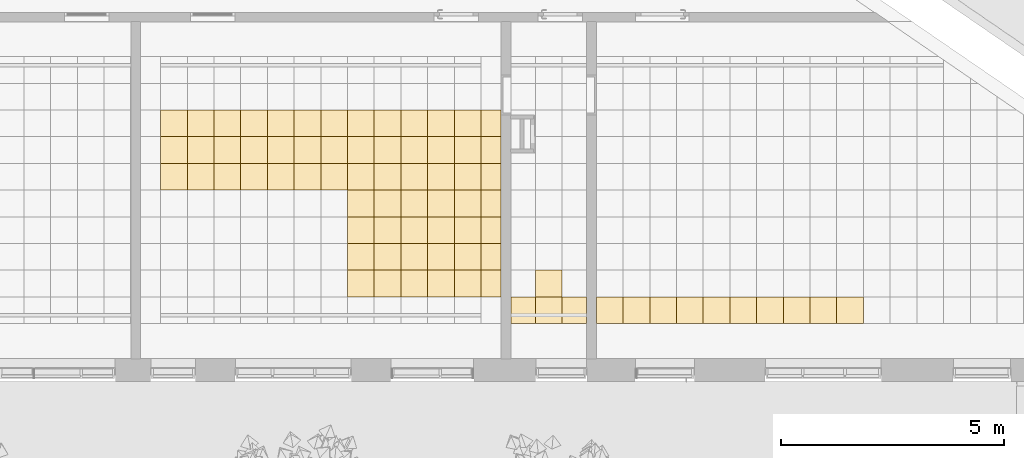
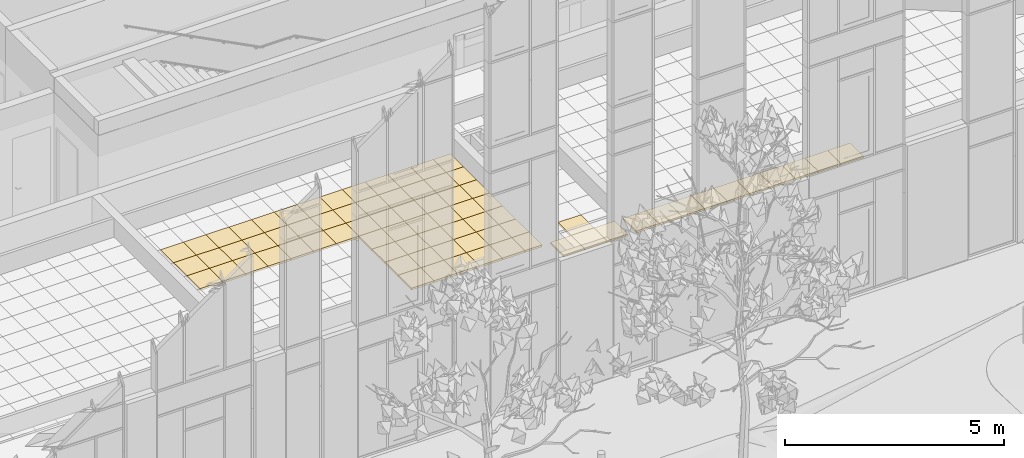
# One storey, part 195 of 246: 77 coverings.
"""IFC2X3 building model written with IfcOpenShell, lengths in millimetres."""

from ifc_helpers import new_model, entity, si_unit, converted_unit, derived_unit, money_unit, direction, frame, origin_with_axes, place, context, subcontext, project, spatial, faceted_brep, material, material_list, type_object, element, save


model = new_model("IFC2X3")

# Units and contexts
model_context = context("Model", 3, precision=0.01, world=origin_with_axes(), true_north=direction((0.0, 1.0)))
body_context = subcontext(model_context, "Body", "Model", "MODEL_VIEW")
ifc_project = project(units=[si_unit("LENGTHUNIT", "METRE", prefix="MILLI"), si_unit("AREAUNIT", "SQUARE_METRE"), si_unit("VOLUMEUNIT", "CUBIC_METRE"), converted_unit("PLANEANGLEUNIT", "DEGREE", entity("IfcPlaneAngleMeasure", 0.0174532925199), si_unit("PLANEANGLEUNIT", "RADIAN"), dimensions=[0, 0, 0, 0, 0, 0, 0]), si_unit("SOLIDANGLEUNIT", "STERADIAN"), money_unit("EUR"), converted_unit("TIMEUNIT", "Year", entity("IfcTimeMeasure", 31556926.0), si_unit("TIMEUNIT", "SECOND"), dimensions=[0, 0, 1, 0, 0, 0, 0]), si_unit("MASSUNIT", "GRAM", prefix="KILO"), si_unit("THERMODYNAMICTEMPERATUREUNIT", "DEGREE_CELSIUS"), si_unit("LUMINOUSINTENSITYUNIT", "LUMEN"), si_unit("ENERGYUNIT", "JOULE", prefix="MEGA"), derived_unit("THERMALCONDUCTANCEUNIT", [(si_unit("POWERUNIT", "WATT"), 1), (si_unit("LENGTHUNIT", "METRE"), -1), (si_unit("THERMODYNAMICTEMPERATUREUNIT", "KELVIN"), -1)]), derived_unit("SPECIFICHEATCAPACITYUNIT", [(si_unit("ENERGYUNIT", "JOULE"), 1), (si_unit("MASSUNIT", "GRAM", prefix="KILO"), -1), (si_unit("THERMODYNAMICTEMPERATUREUNIT", "KELVIN"), -1)]), derived_unit("MASSDENSITYUNIT", [(si_unit("MASSUNIT", "GRAM", prefix="KILO"), 1), (si_unit("VOLUMEUNIT", "CUBIC_METRE"), -1)])], contexts=[model_context])

# Site, building, storey
site_placement = place(None, origin_with_axes())
site = spatial("IfcSite", under=ifc_project, at=site_placement, Name="L.Koidula tn 11b", CompositionType="ELEMENT")
building_placement = place(site_placement, origin_with_axes())
building = spatial("IfcBuilding", under=site, at=building_placement, Name="Rakvere Riigigümnaasium", CompositionType="ELEMENT")
storey_placement = place(building_placement, origin_with_axes())
storey = spatial("IfcBuildingStorey", under=building, at=storey_placement, Name="1.korrus 0,00", CompositionType="ELEMENT", Elevation=0.0)

# Coverings
ifc_material_1 = material(Name="Karkass")
ifc_material_2 = material(Name="Kipsplaat")
ifc_material_list = material_list([ifc_material_1, ifc_material_2])
covering_type = type_object("IfcCoveringType", Name="SA-LV-Kips-moodul 55", PredefinedType="CEILING")
covering_1_placement = place(storey_placement, frame((84339.6975076, 7490.4544438, 2750.0), z_axis=(0.0, 0.0, 1.0), x_axis=(1.0, 0.0, 0.0)))
element("IfcCovering", 1, at=covering_1_placement, inside=storey, type_object=covering_type, material=ifc_material_list, Name="L-03", PredefinedType="CEILING", context=body_context, shape_type="Brep", body=[
    faceted_brep([(-599.999970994, 0.0, 12.5), (-599.999970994, 0.0, 54.5), (0.0, 0.0, 54.5), (0.0, 0.0, 12.5), (-599.999970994, -599.999970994, 12.5), (-599.999970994, -599.999970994, 54.5), (0.0, -599.999970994, 54.5), (0.0, -599.999970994, 12.5)], [[[0, 1, 2, 3]], [[4, 5, 1, 0]], [[2, 1, 5, 6]], [[3, 2, 6, 7]], [[3, 7, 4, 0]], [[7, 6, 5, 4]]]),
    faceted_brep([(0.0, 0.0, 0.0), (-599.999970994, 0.0, 0.0), (-599.999970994, 0.0, 12.5), (0.0, 0.0, 12.5), (0.0, -599.999970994, 0.0), (-599.999970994, -599.999970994, 0.0), (-599.999970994, -599.999970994, 12.5), (0.0, -599.999970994, 12.5)], [[[0, 1, 2, 3]], [[0, 4, 5, 1]], [[1, 5, 6, 2]], [[3, 2, 6, 7]], [[4, 0, 3, 7]], [[5, 4, 7, 6]]]),
])
covering_2_placement = place(storey_placement, frame((84339.6975114, 6890.45442865, 2750.0), z_axis=(0.0, 0.0, 1.0), x_axis=(1.0, 0.0, 0.0)))
element("IfcCovering", 2, at=covering_2_placement, inside=storey, type_object=covering_type, material=ifc_material_list, Name="L-03", PredefinedType="CEILING", context=body_context, shape_type="Brep", body=[
    faceted_brep([(-599.99995585, 0.0, 12.5), (-599.99995585, 0.0, 54.5), (0.0, 0.0, 54.5), (0.0, 0.0, 12.5), (-599.99995585, -599.99995585, 12.5), (-599.99995585, -599.99995585, 54.5), (0.0, -599.99995585, 54.5), (0.0, -599.99995585, 12.5)], [[[0, 1, 2, 3]], [[4, 5, 1, 0]], [[2, 1, 5, 6]], [[3, 2, 6, 7]], [[3, 7, 4, 0]], [[7, 6, 5, 4]]]),
    faceted_brep([(0.0, 0.0, 0.0), (-599.99995585, 0.0, 0.0), (-599.99995585, 0.0, 12.5), (0.0, 0.0, 12.5), (0.0, -599.99995585, 0.0), (-599.99995585, -599.99995585, 0.0), (-599.99995585, -599.99995585, 12.5), (0.0, -599.99995585, 12.5)], [[[0, 1, 2, 3]], [[0, 4, 5, 1]], [[1, 5, 6, 2]], [[3, 2, 6, 7]], [[4, 0, 3, 7]], [[5, 4, 7, 6]]]),
])
covering_3_placement = place(storey_placement, frame((83189.6975436, 6890.45442865, 2750.0), z_axis=(0.0, 0.0, 1.0), x_axis=(1.0, 0.0, 0.0)))
element("IfcCovering", 3, at=covering_3_placement, inside=storey, type_object=covering_type, material=ifc_material_list, Name="L-03", PredefinedType="CEILING", context=body_context, shape_type="Brep", body=[
    faceted_brep([(0.0, -599.99995585, 12.5), (0.0, -599.99995585, 54.5), (0.0, 0.0, 54.5), (0.0, 0.0, 12.5), (549.999942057, -599.99995585, 12.5), (549.999942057, -599.99995585, 54.5), (549.999942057, 0.0, 54.5), (549.999942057, 0.0, 12.5)], [[[0, 1, 2, 3]], [[4, 5, 1, 0]], [[2, 1, 5, 6]], [[3, 2, 6, 7]], [[3, 7, 4, 0]], [[7, 6, 5, 4]]]),
    faceted_brep([(0.0, 0.0, 0.0), (0.0, -599.99995585, 0.0), (0.0, -599.99995585, 12.5), (0.0, 0.0, 12.5), (549.999942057, 0.0, 0.0), (549.999942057, -599.99995585, 0.0), (549.999942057, -599.99995585, 12.5), (549.999942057, 0.0, 12.5)], [[[0, 1, 2, 3]], [[0, 4, 5, 1]], [[1, 5, 6, 2]], [[3, 2, 6, 7]], [[4, 0, 3, 7]], [[5, 4, 7, 6]]]),
])
covering_4_placement = place(storey_placement, frame((84889.6975234, 6890.45442865, 2750.0), z_axis=(0.0, 0.0, 1.0), x_axis=(1.0, 0.0, 0.0)))
element("IfcCovering", 4, at=covering_4_placement, inside=storey, type_object=covering_type, material=ifc_material_list, Name="L-03", PredefinedType="CEILING", context=body_context, shape_type="Brep", body=[
    faceted_brep([(-550.000011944, 0.0, 12.5), (-550.000011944, 0.0, 54.5), (0.0, 0.0, 54.5), (0.0, 0.0, 12.5), (-550.000011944, -599.99995585, 12.5), (-550.000011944, -599.99995585, 54.5), (0.0, -599.99995585, 54.5), (0.0, -599.99995585, 12.5)], [[[0, 1, 2, 3]], [[4, 5, 1, 0]], [[2, 1, 5, 6]], [[3, 2, 6, 7]], [[3, 7, 4, 0]], [[7, 6, 5, 4]]]),
    faceted_brep([(0.0, 0.0, 0.0), (-550.000011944, 0.0, 0.0), (-550.000011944, 0.0, 12.5), (0.0, 0.0, 12.5), (0.0, -599.99995585, 0.0), (-550.000011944, -599.99995585, 0.0), (-550.000011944, -599.99995585, 12.5), (0.0, -599.99995585, 12.5)], [[[0, 1, 2, 3]], [[0, 4, 5, 1]], [[1, 5, 6, 2]], [[3, 2, 6, 7]], [[4, 0, 3, 7]], [[5, 4, 7, 6]]]),
])
for number, where, z_axis, x_axis, name in (
    (5, (75319.7152091, 10490.4535941, 2750.0), (0.0, 0.0, 1.0), (1.0, 0.0, 0.0), "L-03"),
    (6, (75319.7152091, 9890.45359412, 2750.0), (0.0, 0.0, 1.0), (1.0, 0.0, 0.0), "L-03"),
    (7, (75319.7152091, 9290.45359412, 2750.0), (0.0, 0.0, 1.0), (1.0, 0.0, 0.0), "L-03"),
    (8, (76519.7151574, 10490.4535941, 2750.0), (0.0, 0.0, 1.0), (1.0, 0.0, 0.0), "L-03"),
    (9, (76519.7151574, 9890.45359412, 2750.0), (0.0, 0.0, 1.0), (1.0, 0.0, 0.0), "L-03"),
    (10, (76519.7151574, 9290.45359412, 2750.0), (0.0, 0.0, 1.0), (1.0, 0.0, 0.0), "L-03"),
):
    element("IfcCovering", number, at=place(storey_placement, frame(where, z_axis=z_axis, x_axis=x_axis)), inside=storey, type_object=covering_type, material=ifc_material_list, Name=name, PredefinedType="CEILING", context=body_context, shape_type="Brep", body=[
        faceted_brep([(599.999948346, 0.0, 12.5), (599.999948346, 0.0, 54.5), (0.0, 0.0, 54.5), (0.0, 0.0, 12.5), (599.999948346, 600.0, 12.5), (599.999948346, 600.0, 54.5), (0.0, 600.0, 54.5), (0.0, 600.0, 12.5)], [[[0, 1, 2, 3]], [[4, 5, 1, 0]], [[2, 1, 5, 6]], [[3, 2, 6, 7]], [[3, 7, 4, 0]], [[7, 6, 5, 4]]]),
        faceted_brep([(0.0, 0.0, 0.0), (599.999948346, 0.0, 0.0), (599.999948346, 0.0, 12.5), (0.0, 0.0, 12.5), (0.0, 600.0, 0.0), (599.999948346, 600.0, 0.0), (599.999948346, 600.0, 12.5), (0.0, 600.0, 12.5)], [[[0, 1, 2, 3]], [[0, 4, 5, 1]], [[1, 5, 6, 2]], [[3, 2, 6, 7]], [[4, 0, 3, 7]], [[5, 4, 7, 6]]]),
    ])
for number, where, z_axis, x_axis, name in (
    (11, (75919.7151574, 9290.45359412, 2750.0), (0.0, 0.0, 1.0), (1.0, 0.0, 0.0), "L-03"),
    (12, (75919.7151574, 9890.45359412, 2750.0), (0.0, 0.0, 1.0), (1.0, 0.0, 0.0), "L-03"),
    (13, (75919.7151574, 10490.4535941, 2750.0), (0.0, 0.0, 1.0), (1.0, 0.0, 0.0), "L-03"),
):
    element("IfcCovering", number, at=place(storey_placement, frame(where, z_axis=z_axis, x_axis=x_axis)), inside=storey, type_object=covering_type, material=ifc_material_list, Name=name, PredefinedType="CEILING", context=body_context, shape_type="Brep", body=[
        faceted_brep([(600.0, 0.0, 12.5), (600.0, 0.0, 54.5), (0.0, 0.0, 54.5), (0.0, 0.0, 12.5), (600.0, 600.0, 12.5), (600.0, 600.0, 54.5), (0.0, 600.0, 54.5), (0.0, 600.0, 12.5)], [[[0, 1, 2, 3]], [[4, 5, 1, 0]], [[2, 1, 5, 6]], [[3, 2, 6, 7]], [[3, 7, 4, 0]], [[7, 6, 5, 4]]]),
        faceted_brep([(0.0, 0.0, 0.0), (600.0, 0.0, 0.0), (600.0, 0.0, 12.5), (0.0, 0.0, 12.5), (0.0, 600.0, 0.0), (600.0, 600.0, 0.0), (600.0, 600.0, 12.5), (0.0, 600.0, 12.5)], [[[0, 1, 2, 3]], [[0, 4, 5, 1]], [[1, 5, 6, 2]], [[3, 2, 6, 7]], [[4, 0, 3, 7]], [[5, 4, 7, 6]]]),
    ])
for number, where, z_axis, x_axis, name in (
    (14, (77719.7151058, 10490.4535941, 2750.0), (0.0, 0.0, 1.0), (1.0, 0.0, 0.0), "L-03"),
    (15, (77719.7151058, 9890.45359412, 2750.0), (0.0, 0.0, 1.0), (1.0, 0.0, 0.0), "L-03"),
    (16, (77719.7151058, 9290.45359412, 2750.0), (0.0, 0.0, 1.0), (1.0, 0.0, 0.0), "L-03"),
):
    element("IfcCovering", number, at=place(storey_placement, frame(where, z_axis=z_axis, x_axis=x_axis)), inside=storey, type_object=covering_type, material=ifc_material_list, Name=name, PredefinedType="CEILING", context=body_context, shape_type="Brep", body=[
        faceted_brep([(599.999948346, 0.0, 12.5), (599.999948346, 0.0, 54.5), (0.0, 0.0, 54.5), (0.0, 0.0, 12.5), (599.999948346, 600.0, 12.5), (599.999948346, 600.0, 54.5), (0.0, 600.0, 54.5), (0.0, 600.0, 12.5)], [[[0, 1, 2, 3]], [[4, 5, 1, 0]], [[2, 1, 5, 6]], [[3, 2, 6, 7]], [[3, 7, 4, 0]], [[7, 6, 5, 4]]]),
        faceted_brep([(0.0, 0.0, 0.0), (599.999948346, 0.0, 0.0), (599.999948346, 0.0, 12.5), (0.0, 0.0, 12.5), (0.0, 600.0, 0.0), (599.999948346, 600.0, 0.0), (599.999948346, 600.0, 12.5), (0.0, 600.0, 12.5)], [[[0, 1, 2, 3]], [[0, 4, 5, 1]], [[1, 5, 6, 2]], [[3, 2, 6, 7]], [[4, 0, 3, 7]], [[5, 4, 7, 6]]]),
    ])
for number, where, z_axis, x_axis, name in (
    (17, (77119.7151058, 9290.45359412, 2750.0), (0.0, 0.0, 1.0), (1.0, 0.0, 0.0), "L-03"),
    (18, (77119.7151058, 9890.45359412, 2750.0), (0.0, 0.0, 1.0), (1.0, 0.0, 0.0), "L-03"),
    (19, (77119.7151058, 10490.4535941, 2750.0), (0.0, 0.0, 1.0), (1.0, 0.0, 0.0), "L-03"),
):
    element("IfcCovering", number, at=place(storey_placement, frame(where, z_axis=z_axis, x_axis=x_axis)), inside=storey, type_object=covering_type, material=ifc_material_list, Name=name, PredefinedType="CEILING", context=body_context, shape_type="Brep", body=[
        faceted_brep([(600.0, 0.0, 12.5), (600.0, 0.0, 54.5), (0.0, 0.0, 54.5), (0.0, 0.0, 12.5), (600.0, 600.0, 12.5), (600.0, 600.0, 54.5), (0.0, 600.0, 54.5), (0.0, 600.0, 12.5)], [[[0, 1, 2, 3]], [[4, 5, 1, 0]], [[2, 1, 5, 6]], [[3, 2, 6, 7]], [[3, 7, 4, 0]], [[7, 6, 5, 4]]]),
        faceted_brep([(0.0, 0.0, 0.0), (600.0, 0.0, 0.0), (600.0, 0.0, 12.5), (0.0, 0.0, 12.5), (0.0, 600.0, 0.0), (600.0, 600.0, 0.0), (600.0, 600.0, 12.5), (0.0, 600.0, 12.5)], [[[0, 1, 2, 3]], [[0, 4, 5, 1]], [[1, 5, 6, 2]], [[3, 2, 6, 7]], [[4, 0, 3, 7]], [[5, 4, 7, 6]]]),
    ])
for number, where, z_axis, x_axis, name in (
    (20, (78919.7150541, 10490.4535941, 2750.0), (0.0, 0.0, 1.0), (1.0, 0.0, 0.0), "L-03"),
    (21, (78919.7150541, 9890.45359412, 2750.0), (0.0, 0.0, 1.0), (1.0, 0.0, 0.0), "L-03"),
    (22, (78919.7150541, 9290.45359412, 2750.0), (0.0, 0.0, 1.0), (1.0, 0.0, 0.0), "L-03"),
):
    element("IfcCovering", number, at=place(storey_placement, frame(where, z_axis=z_axis, x_axis=x_axis)), inside=storey, type_object=covering_type, material=ifc_material_list, Name=name, PredefinedType="CEILING", context=body_context, shape_type="Brep", body=[
        faceted_brep([(599.999948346, 0.0, 12.5), (599.999948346, 0.0, 54.5), (0.0, 0.0, 54.5), (0.0, 0.0, 12.5), (599.999948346, 600.0, 12.5), (599.999948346, 600.0, 54.5), (0.0, 600.0, 54.5), (0.0, 600.0, 12.5)], [[[0, 1, 2, 3]], [[4, 5, 1, 0]], [[2, 1, 5, 6]], [[3, 2, 6, 7]], [[3, 7, 4, 0]], [[7, 6, 5, 4]]]),
        faceted_brep([(0.0, 0.0, 0.0), (599.999948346, 0.0, 0.0), (599.999948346, 0.0, 12.5), (0.0, 0.0, 12.5), (0.0, 600.0, 0.0), (599.999948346, 600.0, 0.0), (599.999948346, 600.0, 12.5), (0.0, 600.0, 12.5)], [[[0, 1, 2, 3]], [[0, 4, 5, 1]], [[1, 5, 6, 2]], [[3, 2, 6, 7]], [[4, 0, 3, 7]], [[5, 4, 7, 6]]]),
    ])
for number, where, z_axis, x_axis, name in (
    (23, (78319.7150541, 9290.45359412, 2750.0), (0.0, 0.0, 1.0), (1.0, 0.0, 0.0), "L-03"),
    (24, (78319.7150541, 9890.45359412, 2750.0), (0.0, 0.0, 1.0), (1.0, 0.0, 0.0), "L-03"),
    (25, (78319.7150541, 10490.4535941, 2750.0), (0.0, 0.0, 1.0), (1.0, 0.0, 0.0), "L-03"),
):
    element("IfcCovering", number, at=place(storey_placement, frame(where, z_axis=z_axis, x_axis=x_axis)), inside=storey, type_object=covering_type, material=ifc_material_list, Name=name, PredefinedType="CEILING", context=body_context, shape_type="Brep", body=[
        faceted_brep([(600.0, 0.0, 12.5), (600.0, 0.0, 54.5), (0.0, 0.0, 54.5), (0.0, 0.0, 12.5), (600.0, 600.0, 12.5), (600.0, 600.0, 54.5), (0.0, 600.0, 54.5), (0.0, 600.0, 12.5)], [[[0, 1, 2, 3]], [[4, 5, 1, 0]], [[2, 1, 5, 6]], [[3, 2, 6, 7]], [[3, 7, 4, 0]], [[7, 6, 5, 4]]]),
        faceted_brep([(0.0, 0.0, 0.0), (600.0, 0.0, 0.0), (600.0, 0.0, 12.5), (0.0, 0.0, 12.5), (0.0, 600.0, 0.0), (600.0, 600.0, 0.0), (600.0, 600.0, 12.5), (0.0, 600.0, 12.5)], [[[0, 1, 2, 3]], [[0, 4, 5, 1]], [[1, 5, 6, 2]], [[3, 2, 6, 7]], [[4, 0, 3, 7]], [[5, 4, 7, 6]]]),
    ])
for number, where, z_axis, x_axis, name in (
    (26, (80119.7150025, 10490.4535941, 2750.0), (0.0, 0.0, 1.0), (1.0, 0.0, 0.0), "L-03"),
    (27, (80119.7150025, 9890.45359412, 2750.0), (0.0, 0.0, 1.0), (1.0, 0.0, 0.0), "L-03"),
    (28, (80119.7150025, 9290.45359412, 2750.0), (0.0, 0.0, 1.0), (1.0, 0.0, 0.0), "L-03"),
    (29, (80119.7150025, 8690.45359412, 2750.0), (0.0, 0.0, 1.0), (1.0, 0.0, 0.0), "L-03"),
    (30, (80119.7150025, 8090.45359412, 2750.0), (0.0, 0.0, 1.0), (1.0, 0.0, 0.0), "L-03"),
    (31, (80119.7150025, 7490.45359412, 2750.0), (0.0, 0.0, 1.0), (1.0, 0.0, 0.0), "L-03"),
    (32, (80119.7150025, 6890.45359412, 2750.0), (0.0, 0.0, 1.0), (1.0, 0.0, 0.0), "L-03"),
):
    element("IfcCovering", number, at=place(storey_placement, frame(where, z_axis=z_axis, x_axis=x_axis)), inside=storey, type_object=covering_type, material=ifc_material_list, Name=name, PredefinedType="CEILING", context=body_context, shape_type="Brep", body=[
        faceted_brep([(599.999948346, 0.0, 12.5), (599.999948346, 0.0, 54.5), (0.0, 0.0, 54.5), (0.0, 0.0, 12.5), (599.999948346, 600.0, 12.5), (599.999948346, 600.0, 54.5), (0.0, 600.0, 54.5), (0.0, 600.0, 12.5)], [[[0, 1, 2, 3]], [[4, 5, 1, 0]], [[2, 1, 5, 6]], [[3, 2, 6, 7]], [[3, 7, 4, 0]], [[7, 6, 5, 4]]]),
        faceted_brep([(0.0, 0.0, 0.0), (599.999948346, 0.0, 0.0), (599.999948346, 0.0, 12.5), (0.0, 0.0, 12.5), (0.0, 600.0, 0.0), (599.999948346, 600.0, 0.0), (599.999948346, 600.0, 12.5), (0.0, 600.0, 12.5)], [[[0, 1, 2, 3]], [[0, 4, 5, 1]], [[1, 5, 6, 2]], [[3, 2, 6, 7]], [[4, 0, 3, 7]], [[5, 4, 7, 6]]]),
    ])
for number, where, z_axis, x_axis, name in (
    (33, (79519.7150025, 7490.45359412, 2750.0), (0.0, 0.0, 1.0), (1.0, 0.0, 0.0), "L-03"),
    (34, (79519.7150025, 8090.45359412, 2750.0), (0.0, 0.0, 1.0), (1.0, 0.0, 0.0), "L-03"),
    (35, (79519.7150025, 8690.45359412, 2750.0), (0.0, 0.0, 1.0), (1.0, 0.0, 0.0), "L-03"),
    (36, (79519.7150025, 9290.45359412, 2750.0), (0.0, 0.0, 1.0), (1.0, 0.0, 0.0), "L-03"),
    (37, (79519.7150025, 9890.45359412, 2750.0), (0.0, 0.0, 1.0), (1.0, 0.0, 0.0), "L-03"),
    (38, (79519.7150025, 10490.4535941, 2750.0), (0.0, 0.0, 1.0), (1.0, 0.0, 0.0), "L-03"),
    (39, (79519.7150025, 6890.45359412, 2750.0), (0.0, 0.0, 1.0), (1.0, 0.0, 0.0), "L-03"),
):
    element("IfcCovering", number, at=place(storey_placement, frame(where, z_axis=z_axis, x_axis=x_axis)), inside=storey, type_object=covering_type, material=ifc_material_list, Name=name, PredefinedType="CEILING", context=body_context, shape_type="Brep", body=[
        faceted_brep([(600.0, 0.0, 12.5), (600.0, 0.0, 54.5), (0.0, 0.0, 54.5), (0.0, 0.0, 12.5), (600.0, 600.0, 12.5), (600.0, 600.0, 54.5), (0.0, 600.0, 54.5), (0.0, 600.0, 12.5)], [[[0, 1, 2, 3]], [[4, 5, 1, 0]], [[2, 1, 5, 6]], [[3, 2, 6, 7]], [[3, 7, 4, 0]], [[7, 6, 5, 4]]]),
        faceted_brep([(0.0, 0.0, 0.0), (600.0, 0.0, 0.0), (600.0, 0.0, 12.5), (0.0, 0.0, 12.5), (0.0, 600.0, 0.0), (600.0, 600.0, 0.0), (600.0, 600.0, 12.5), (0.0, 600.0, 12.5)], [[[0, 1, 2, 3]], [[0, 4, 5, 1]], [[1, 5, 6, 2]], [[3, 2, 6, 7]], [[4, 0, 3, 7]], [[5, 4, 7, 6]]]),
    ])
for number, where, z_axis, x_axis, name in (
    (40, (81319.7149508, 10490.4535941, 2750.0), (0.0, 0.0, 1.0), (1.0, 0.0, 0.0), "L-03"),
    (41, (81319.7149508, 9890.45359412, 2750.0), (0.0, 0.0, 1.0), (1.0, 0.0, 0.0), "L-03"),
    (42, (81319.7149508, 9290.45359412, 2750.0), (0.0, 0.0, 1.0), (1.0, 0.0, 0.0), "L-03"),
    (43, (81319.7149508, 8690.45359412, 2750.0), (0.0, 0.0, 1.0), (1.0, 0.0, 0.0), "L-03"),
    (44, (81319.7149508, 8090.45359412, 2750.0), (0.0, 0.0, 1.0), (1.0, 0.0, 0.0), "L-03"),
    (45, (81319.7149508, 7490.45359412, 2750.0), (0.0, 0.0, 1.0), (1.0, 0.0, 0.0), "L-03"),
    (46, (81319.7149508, 6890.45359412, 2750.0), (0.0, 0.0, 1.0), (1.0, 0.0, 0.0), "L-03"),
):
    element("IfcCovering", number, at=place(storey_placement, frame(where, z_axis=z_axis, x_axis=x_axis)), inside=storey, type_object=covering_type, material=ifc_material_list, Name=name, PredefinedType="CEILING", context=body_context, shape_type="Brep", body=[
        faceted_brep([(599.999948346, 0.0, 12.5), (599.999948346, 0.0, 54.5), (0.0, 0.0, 54.5), (0.0, 0.0, 12.5), (599.999948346, 600.0, 12.5), (599.999948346, 600.0, 54.5), (0.0, 600.0, 54.5), (0.0, 600.0, 12.5)], [[[0, 1, 2, 3]], [[4, 5, 1, 0]], [[2, 1, 5, 6]], [[3, 2, 6, 7]], [[3, 7, 4, 0]], [[7, 6, 5, 4]]]),
        faceted_brep([(0.0, 0.0, 0.0), (599.999948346, 0.0, 0.0), (599.999948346, 0.0, 12.5), (0.0, 0.0, 12.5), (0.0, 600.0, 0.0), (599.999948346, 600.0, 0.0), (599.999948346, 600.0, 12.5), (0.0, 600.0, 12.5)], [[[0, 1, 2, 3]], [[0, 4, 5, 1]], [[1, 5, 6, 2]], [[3, 2, 6, 7]], [[4, 0, 3, 7]], [[5, 4, 7, 6]]]),
    ])
for number, where, z_axis, x_axis, name in (
    (47, (80719.7149508, 7490.45359412, 2750.0), (0.0, 0.0, 1.0), (1.0, 0.0, 0.0), "L-03"),
    (48, (80719.7149508, 8090.45359412, 2750.0), (0.0, 0.0, 1.0), (1.0, 0.0, 0.0), "L-03"),
    (49, (80719.7149508, 8690.45359412, 2750.0), (0.0, 0.0, 1.0), (1.0, 0.0, 0.0), "L-03"),
    (50, (80719.7149508, 9290.45359412, 2750.0), (0.0, 0.0, 1.0), (1.0, 0.0, 0.0), "L-03"),
    (51, (80719.7149508, 9890.45359412, 2750.0), (0.0, 0.0, 1.0), (1.0, 0.0, 0.0), "L-03"),
    (52, (80719.7149508, 10490.4535941, 2750.0), (0.0, 0.0, 1.0), (1.0, 0.0, 0.0), "L-03"),
    (53, (80719.7149508, 6890.45359412, 2750.0), (0.0, 0.0, 1.0), (1.0, 0.0, 0.0), "L-03"),
):
    element("IfcCovering", number, at=place(storey_placement, frame(where, z_axis=z_axis, x_axis=x_axis)), inside=storey, type_object=covering_type, material=ifc_material_list, Name=name, PredefinedType="CEILING", context=body_context, shape_type="Brep", body=[
        faceted_brep([(600.0, 0.0, 12.5), (600.0, 0.0, 54.5), (0.0, 0.0, 54.5), (0.0, 0.0, 12.5), (600.0, 600.0, 12.5), (600.0, 600.0, 54.5), (0.0, 600.0, 54.5), (0.0, 600.0, 12.5)], [[[0, 1, 2, 3]], [[4, 5, 1, 0]], [[2, 1, 5, 6]], [[3, 2, 6, 7]], [[3, 7, 4, 0]], [[7, 6, 5, 4]]]),
        faceted_brep([(0.0, 0.0, 0.0), (600.0, 0.0, 0.0), (600.0, 0.0, 12.5), (0.0, 0.0, 12.5), (0.0, 600.0, 0.0), (600.0, 600.0, 0.0), (600.0, 600.0, 12.5), (0.0, 600.0, 12.5)], [[[0, 1, 2, 3]], [[0, 4, 5, 1]], [[1, 5, 6, 2]], [[3, 2, 6, 7]], [[4, 0, 3, 7]], [[5, 4, 7, 6]]]),
    ])
for number, where, z_axis, x_axis, name in (
    (54, (82519.7148992, 10490.4535941, 2750.0), (0.0, 0.0, 1.0), (1.0, 0.0, 0.0), "L-03"),
    (55, (82519.7148992, 9890.45359412, 2750.0), (0.0, 0.0, 1.0), (1.0, 0.0, 0.0), "L-03"),
    (56, (82519.7148992, 9290.45359412, 2750.0), (0.0, 0.0, 1.0), (1.0, 0.0, 0.0), "L-03"),
    (57, (82519.7148992, 8690.45359412, 2750.0), (0.0, 0.0, 1.0), (1.0, 0.0, 0.0), "L-03"),
    (58, (82519.7148992, 8090.45359412, 2750.0), (0.0, 0.0, 1.0), (1.0, 0.0, 0.0), "L-03"),
    (59, (82519.7148992, 7490.45359412, 2750.0), (0.0, 0.0, 1.0), (1.0, 0.0, 0.0), "L-03"),
    (60, (82519.7148992, 6890.45359412, 2750.0), (0.0, 0.0, 1.0), (1.0, 0.0, 0.0), "L-03"),
):
    element("IfcCovering", number, at=place(storey_placement, frame(where, z_axis=z_axis, x_axis=x_axis)), inside=storey, type_object=covering_type, material=ifc_material_list, Name=name, PredefinedType="CEILING", context=body_context, shape_type="Brep", body=[
        faceted_brep([(450.341138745, 0.0, 12.5), (450.341138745, 0.0, 54.5), (0.0, 0.0, 54.5), (0.0, 0.0, 12.5), (450.341138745, 600.0, 12.5), (450.341138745, 600.0, 54.5), (0.0, 600.0, 54.5), (0.0, 600.0, 12.5)], [[[0, 1, 2, 3]], [[4, 5, 1, 0]], [[2, 1, 5, 6]], [[3, 2, 6, 7]], [[3, 7, 4, 0]], [[7, 6, 5, 4]]]),
        faceted_brep([(0.0, 0.0, 0.0), (450.341138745, 0.0, 0.0), (450.341138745, 0.0, 12.5), (0.0, 0.0, 12.5), (0.0, 600.0, 0.0), (450.341138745, 600.0, 0.0), (450.341138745, 600.0, 12.5), (0.0, 600.0, 12.5)], [[[0, 1, 2, 3]], [[0, 4, 5, 1]], [[1, 5, 6, 2]], [[3, 2, 6, 7]], [[4, 0, 3, 7]], [[5, 4, 7, 6]]]),
    ])
for number, where, z_axis, x_axis, name in (
    (61, (81919.7148992, 7490.45359412, 2750.0), (0.0, 0.0, 1.0), (1.0, 0.0, 0.0), "L-03"),
    (62, (81919.7148992, 8090.45359412, 2750.0), (0.0, 0.0, 1.0), (1.0, 0.0, 0.0), "L-03"),
    (63, (81919.7148992, 8690.45359412, 2750.0), (0.0, 0.0, 1.0), (1.0, 0.0, 0.0), "L-03"),
    (64, (81919.7148992, 9290.45359412, 2750.0), (0.0, 0.0, 1.0), (1.0, 0.0, 0.0), "L-03"),
    (65, (81919.7148992, 9890.45359412, 2750.0), (0.0, 0.0, 1.0), (1.0, 0.0, 0.0), "L-03"),
    (66, (81919.7148992, 10490.4535941, 2750.0), (0.0, 0.0, 1.0), (1.0, 0.0, 0.0), "L-03"),
    (67, (81919.7148992, 6890.45359412, 2750.0), (0.0, 0.0, 1.0), (1.0, 0.0, 0.0), "L-03"),
):
    element("IfcCovering", number, at=place(storey_placement, frame(where, z_axis=z_axis, x_axis=x_axis)), inside=storey, type_object=covering_type, material=ifc_material_list, Name=name, PredefinedType="CEILING", context=body_context, shape_type="Brep", body=[
        faceted_brep([(600.0, 0.0, 12.5), (600.0, 0.0, 54.5), (0.0, 0.0, 54.5), (0.0, 0.0, 12.5), (600.0, 600.0, 12.5), (600.0, 600.0, 54.5), (0.0, 600.0, 54.5), (0.0, 600.0, 12.5)], [[[0, 1, 2, 3]], [[4, 5, 1, 0]], [[2, 1, 5, 6]], [[3, 2, 6, 7]], [[3, 7, 4, 0]], [[7, 6, 5, 4]]]),
        faceted_brep([(0.0, 0.0, 0.0), (600.0, 0.0, 0.0), (600.0, 0.0, 12.5), (0.0, 0.0, 12.5), (0.0, 600.0, 0.0), (600.0, 600.0, 0.0), (600.0, 600.0, 12.5), (0.0, 600.0, 12.5)], [[[0, 1, 2, 3]], [[0, 4, 5, 1]], [[1, 5, 6, 2]], [[3, 2, 6, 7]], [[4, 0, 3, 7]], [[5, 4, 7, 6]]]),
    ])
covering_5_placement = place(storey_placement, frame((85709.885345, 6290.45359412, 2750.0), z_axis=(0.0, 0.0, 1.0), x_axis=(1.0, 0.0, 0.0)))
element("IfcCovering", 68, at=covering_5_placement, inside=storey, type_object=covering_type, material=ifc_material_list, Name="L-03", PredefinedType="CEILING", context=body_context, shape_type="Brep", body=[
    faceted_brep([(599.999948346, 0.0, 12.5), (599.999948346, 0.0, 54.5), (0.0, 0.0, 54.5), (0.0, 0.0, 12.5), (599.999948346, 600.0, 12.5), (599.999948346, 600.0, 54.5), (0.0, 600.0, 54.5), (0.0, 600.0, 12.5)], [[[0, 1, 2, 3]], [[4, 5, 1, 0]], [[2, 1, 5, 6]], [[3, 2, 6, 7]], [[3, 7, 4, 0]], [[7, 6, 5, 4]]]),
    faceted_brep([(0.0, 0.0, 0.0), (599.999948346, 0.0, 0.0), (599.999948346, 0.0, 12.5), (0.0, 0.0, 12.5), (0.0, 600.0, 0.0), (599.999948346, 600.0, 0.0), (599.999948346, 600.0, 12.5), (0.0, 600.0, 12.5)], [[[0, 1, 2, 3]], [[0, 4, 5, 1]], [[1, 5, 6, 2]], [[3, 2, 6, 7]], [[4, 0, 3, 7]], [[5, 4, 7, 6]]]),
])
covering_6_placement = place(storey_placement, frame((85109.885345, 6290.45359412, 2750.0), z_axis=(0.0, 0.0, 1.0), x_axis=(1.0, 0.0, 0.0)))
element("IfcCovering", 69, at=covering_6_placement, inside=storey, type_object=covering_type, material=ifc_material_list, Name="L-03", PredefinedType="CEILING", context=body_context, shape_type="Brep", body=[
    faceted_brep([(600.0, 0.0, 12.5), (600.0, 0.0, 54.5), (0.0, 0.0, 54.5), (0.0, 0.0, 12.5), (600.0, 600.0, 12.5), (600.0, 600.0, 54.5), (0.0, 600.0, 54.5), (0.0, 600.0, 12.5)], [[[0, 1, 2, 3]], [[4, 5, 1, 0]], [[2, 1, 5, 6]], [[3, 2, 6, 7]], [[3, 7, 4, 0]], [[7, 6, 5, 4]]]),
    faceted_brep([(0.0, 0.0, 0.0), (600.0, 0.0, 0.0), (600.0, 0.0, 12.5), (0.0, 0.0, 12.5), (0.0, 600.0, 0.0), (600.0, 600.0, 0.0), (600.0, 600.0, 12.5), (0.0, 600.0, 12.5)], [[[0, 1, 2, 3]], [[0, 4, 5, 1]], [[1, 5, 6, 2]], [[3, 2, 6, 7]], [[4, 0, 3, 7]], [[5, 4, 7, 6]]]),
])
covering_7_placement = place(storey_placement, frame((86909.8852933, 6290.45359412, 2750.0), z_axis=(0.0, 0.0, 1.0), x_axis=(1.0, 0.0, 0.0)))
element("IfcCovering", 70, at=covering_7_placement, inside=storey, type_object=covering_type, material=ifc_material_list, Name="L-03", PredefinedType="CEILING", context=body_context, shape_type="Brep", body=[
    faceted_brep([(599.999948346, 0.0, 12.5), (599.999948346, 0.0, 54.5), (0.0, 0.0, 54.5), (0.0, 0.0, 12.5), (599.999948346, 600.0, 12.5), (599.999948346, 600.0, 54.5), (0.0, 600.0, 54.5), (0.0, 600.0, 12.5)], [[[0, 1, 2, 3]], [[4, 5, 1, 0]], [[2, 1, 5, 6]], [[3, 2, 6, 7]], [[3, 7, 4, 0]], [[7, 6, 5, 4]]]),
    faceted_brep([(0.0, 0.0, 0.0), (599.999948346, 0.0, 0.0), (599.999948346, 0.0, 12.5), (0.0, 0.0, 12.5), (0.0, 600.0, 0.0), (599.999948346, 600.0, 0.0), (599.999948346, 600.0, 12.5), (0.0, 600.0, 12.5)], [[[0, 1, 2, 3]], [[0, 4, 5, 1]], [[1, 5, 6, 2]], [[3, 2, 6, 7]], [[4, 0, 3, 7]], [[5, 4, 7, 6]]]),
])
covering_8_placement = place(storey_placement, frame((86309.8852933, 6290.45359412, 2750.0), z_axis=(0.0, 0.0, 1.0), x_axis=(1.0, 0.0, 0.0)))
element("IfcCovering", 71, at=covering_8_placement, inside=storey, type_object=covering_type, material=ifc_material_list, Name="L-03", PredefinedType="CEILING", context=body_context, shape_type="Brep", body=[
    faceted_brep([(600.0, 0.0, 12.5), (600.0, 0.0, 54.5), (0.0, 0.0, 54.5), (0.0, 0.0, 12.5), (600.0, 600.0, 12.5), (600.0, 600.0, 54.5), (0.0, 600.0, 54.5), (0.0, 600.0, 12.5)], [[[0, 1, 2, 3]], [[4, 5, 1, 0]], [[2, 1, 5, 6]], [[3, 2, 6, 7]], [[3, 7, 4, 0]], [[7, 6, 5, 4]]]),
    faceted_brep([(0.0, 0.0, 0.0), (600.0, 0.0, 0.0), (600.0, 0.0, 12.5), (0.0, 0.0, 12.5), (0.0, 600.0, 0.0), (600.0, 600.0, 0.0), (600.0, 600.0, 12.5), (0.0, 600.0, 12.5)], [[[0, 1, 2, 3]], [[0, 4, 5, 1]], [[1, 5, 6, 2]], [[3, 2, 6, 7]], [[4, 0, 3, 7]], [[5, 4, 7, 6]]]),
])
covering_9_placement = place(storey_placement, frame((88109.8852417, 6290.45359412, 2750.0), z_axis=(0.0, 0.0, 1.0), x_axis=(1.0, 0.0, 0.0)))
element("IfcCovering", 72, at=covering_9_placement, inside=storey, type_object=covering_type, material=ifc_material_list, Name="L-03", PredefinedType="CEILING", context=body_context, shape_type="Brep", body=[
    faceted_brep([(599.999948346, 0.0, 12.5), (599.999948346, 0.0, 54.5), (0.0, 0.0, 54.5), (0.0, 0.0, 12.5), (599.999948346, 600.0, 12.5), (599.999948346, 600.0, 54.5), (0.0, 600.0, 54.5), (0.0, 600.0, 12.5)], [[[0, 1, 2, 3]], [[4, 5, 1, 0]], [[2, 1, 5, 6]], [[3, 2, 6, 7]], [[3, 7, 4, 0]], [[7, 6, 5, 4]]]),
    faceted_brep([(0.0, 0.0, 0.0), (599.999948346, 0.0, 0.0), (599.999948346, 0.0, 12.5), (0.0, 0.0, 12.5), (0.0, 600.0, 0.0), (599.999948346, 600.0, 0.0), (599.999948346, 600.0, 12.5), (0.0, 600.0, 12.5)], [[[0, 1, 2, 3]], [[0, 4, 5, 1]], [[1, 5, 6, 2]], [[3, 2, 6, 7]], [[4, 0, 3, 7]], [[5, 4, 7, 6]]]),
])
covering_10_placement = place(storey_placement, frame((87509.8852417, 6290.45359412, 2750.0), z_axis=(0.0, 0.0, 1.0), x_axis=(1.0, 0.0, 0.0)))
element("IfcCovering", 73, at=covering_10_placement, inside=storey, type_object=covering_type, material=ifc_material_list, Name="L-03", PredefinedType="CEILING", context=body_context, shape_type="Brep", body=[
    faceted_brep([(600.0, 0.0, 12.5), (600.0, 0.0, 54.5), (0.0, 0.0, 54.5), (0.0, 0.0, 12.5), (600.0, 600.0, 12.5), (600.0, 600.0, 54.5), (0.0, 600.0, 54.5), (0.0, 600.0, 12.5)], [[[0, 1, 2, 3]], [[4, 5, 1, 0]], [[2, 1, 5, 6]], [[3, 2, 6, 7]], [[3, 7, 4, 0]], [[7, 6, 5, 4]]]),
    faceted_brep([(0.0, 0.0, 0.0), (600.0, 0.0, 0.0), (600.0, 0.0, 12.5), (0.0, 0.0, 12.5), (0.0, 600.0, 0.0), (600.0, 600.0, 0.0), (600.0, 600.0, 12.5), (0.0, 600.0, 12.5)], [[[0, 1, 2, 3]], [[0, 4, 5, 1]], [[1, 5, 6, 2]], [[3, 2, 6, 7]], [[4, 0, 3, 7]], [[5, 4, 7, 6]]]),
])
covering_11_placement = place(storey_placement, frame((89309.88519, 6290.45359412, 2750.0), z_axis=(0.0, 0.0, 1.0), x_axis=(1.0, 0.0, 0.0)))
element("IfcCovering", 74, at=covering_11_placement, inside=storey, type_object=covering_type, material=ifc_material_list, Name="L-03", PredefinedType="CEILING", context=body_context, shape_type="Brep", body=[
    faceted_brep([(599.999948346, 0.0, 12.5), (599.999948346, 0.0, 54.5), (0.0, 0.0, 54.5), (0.0, 0.0, 12.5), (599.999948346, 600.0, 12.5), (599.999948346, 600.0, 54.5), (0.0, 600.0, 54.5), (0.0, 600.0, 12.5)], [[[0, 1, 2, 3]], [[4, 5, 1, 0]], [[2, 1, 5, 6]], [[3, 2, 6, 7]], [[3, 7, 4, 0]], [[7, 6, 5, 4]]]),
    faceted_brep([(0.0, 0.0, 0.0), (599.999948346, 0.0, 0.0), (599.999948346, 0.0, 12.5), (0.0, 0.0, 12.5), (0.0, 600.0, 0.0), (599.999948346, 600.0, 0.0), (599.999948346, 600.0, 12.5), (0.0, 600.0, 12.5)], [[[0, 1, 2, 3]], [[0, 4, 5, 1]], [[1, 5, 6, 2]], [[3, 2, 6, 7]], [[4, 0, 3, 7]], [[5, 4, 7, 6]]]),
])
covering_12_placement = place(storey_placement, frame((88709.88519, 6290.45359412, 2750.0), z_axis=(0.0, 0.0, 1.0), x_axis=(1.0, 0.0, 0.0)))
element("IfcCovering", 75, at=covering_12_placement, inside=storey, type_object=covering_type, material=ifc_material_list, Name="L-03", PredefinedType="CEILING", context=body_context, shape_type="Brep", body=[
    faceted_brep([(600.0, 0.0, 12.5), (600.0, 0.0, 54.5), (0.0, 0.0, 54.5), (0.0, 0.0, 12.5), (600.0, 600.0, 12.5), (600.0, 600.0, 54.5), (0.0, 600.0, 54.5), (0.0, 600.0, 12.5)], [[[0, 1, 2, 3]], [[4, 5, 1, 0]], [[2, 1, 5, 6]], [[3, 2, 6, 7]], [[3, 7, 4, 0]], [[7, 6, 5, 4]]]),
    faceted_brep([(0.0, 0.0, 0.0), (600.0, 0.0, 0.0), (600.0, 0.0, 12.5), (0.0, 0.0, 12.5), (0.0, 600.0, 0.0), (600.0, 600.0, 0.0), (600.0, 600.0, 12.5), (0.0, 600.0, 12.5)], [[[0, 1, 2, 3]], [[0, 4, 5, 1]], [[1, 5, 6, 2]], [[3, 2, 6, 7]], [[4, 0, 3, 7]], [[5, 4, 7, 6]]]),
])
covering_13_placement = place(storey_placement, frame((90509.8851384, 6290.45359412, 2750.0), z_axis=(0.0, 0.0, 1.0), x_axis=(1.0, 0.0, 0.0)))
element("IfcCovering", 76, at=covering_13_placement, inside=storey, type_object=covering_type, material=ifc_material_list, Name="L-03", PredefinedType="CEILING", context=body_context, shape_type="Brep", body=[
    faceted_brep([(599.999948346, 0.0, 12.5), (599.999948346, 0.0, 54.5), (0.0, 0.0, 54.5), (0.0, 0.0, 12.5), (599.999948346, 600.0, 12.5), (599.999948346, 600.0, 54.5), (0.0, 600.0, 54.5), (0.0, 600.0, 12.5)], [[[0, 1, 2, 3]], [[4, 5, 1, 0]], [[2, 1, 5, 6]], [[3, 2, 6, 7]], [[3, 7, 4, 0]], [[7, 6, 5, 4]]]),
    faceted_brep([(0.0, 0.0, 0.0), (599.999948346, 0.0, 0.0), (599.999948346, 0.0, 12.5), (0.0, 0.0, 12.5), (0.0, 600.0, 0.0), (599.999948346, 600.0, 0.0), (599.999948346, 600.0, 12.5), (0.0, 600.0, 12.5)], [[[0, 1, 2, 3]], [[0, 4, 5, 1]], [[1, 5, 6, 2]], [[3, 2, 6, 7]], [[4, 0, 3, 7]], [[5, 4, 7, 6]]]),
])
covering_14_placement = place(storey_placement, frame((89909.8851384, 6290.45359412, 2750.0), z_axis=(0.0, 0.0, 1.0), x_axis=(1.0, 0.0, 0.0)))
element("IfcCovering", 77, at=covering_14_placement, inside=storey, type_object=covering_type, material=ifc_material_list, Name="L-03", PredefinedType="CEILING", context=body_context, shape_type="Brep", body=[
    faceted_brep([(600.0, 0.0, 12.5), (600.0, 0.0, 54.5), (0.0, 0.0, 54.5), (0.0, 0.0, 12.5), (600.0, 600.0, 12.5), (600.0, 600.0, 54.5), (0.0, 600.0, 54.5), (0.0, 600.0, 12.5)], [[[0, 1, 2, 3]], [[4, 5, 1, 0]], [[2, 1, 5, 6]], [[3, 2, 6, 7]], [[3, 7, 4, 0]], [[7, 6, 5, 4]]]),
    faceted_brep([(0.0, 0.0, 0.0), (600.0, 0.0, 0.0), (600.0, 0.0, 12.5), (0.0, 0.0, 12.5), (0.0, 600.0, 0.0), (600.0, 600.0, 0.0), (600.0, 600.0, 12.5), (0.0, 600.0, 12.5)], [[[0, 1, 2, 3]], [[0, 4, 5, 1]], [[1, 5, 6, 2]], [[3, 2, 6, 7]], [[4, 0, 3, 7]], [[5, 4, 7, 6]]]),
])

save(model, "model.ifc")
